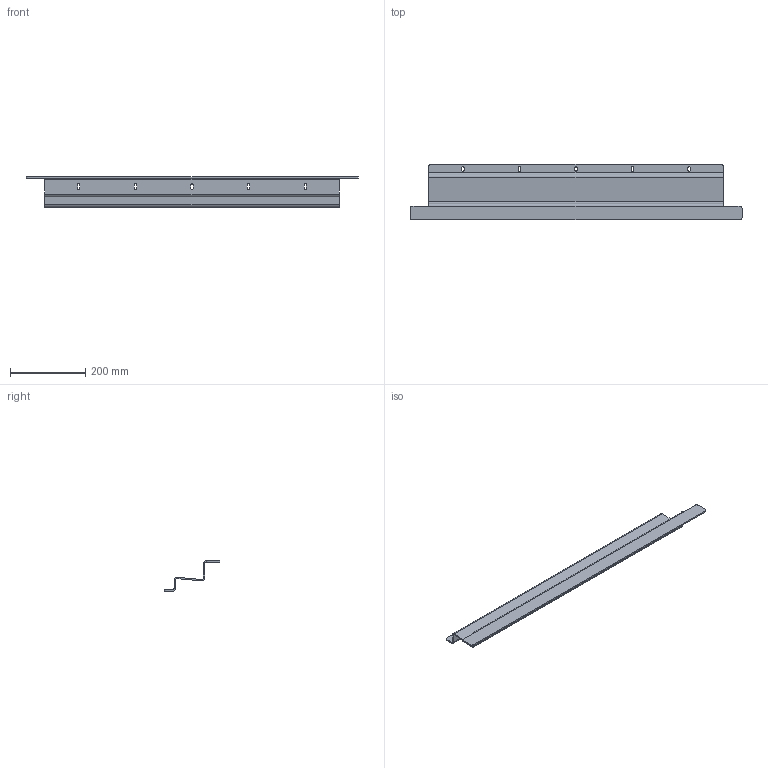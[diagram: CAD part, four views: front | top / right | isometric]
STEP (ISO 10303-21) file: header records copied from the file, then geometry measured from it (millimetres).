
FILE_DESCRIPTION(/* description */ (''),/* implementation_level */ '2;1');
FILE_NAME(/* name */ 'Light Curtain Bottom bracket.step',/* time_stamp */ '2026-05-13T10:46:27-07:00',/* author */ (''),/* organization */ (''),/* preprocessor_version */ 'ST-DEVELOPER v20.1',/* originating_system */ 'Autodesk Translation Framework v15.8.0.0',/* authorisation */ '');
FILE_SCHEMA (('AUTOMOTIVE_DESIGN { 1 0 10303 214 3 1 1 }'));
Length unit declared in the file: millimetre
Products named in the file (1): Light Curtain Bottom bracket
Bounding box: 880 x 147.9 x 80.85 mm (x, y, z)
Volume: 644882.6 mm3; surface area: 360773.8 mm2
Topology: 1 solids, 1 shells, 86 faces, 220 edges, 136 vertices
Faces by surface type: plane 52, cylinder 34
Entity records: 2649 total; most frequent: DIRECTION 462, CARTESIAN_POINT 443, ORIENTED_EDGE 440, EDGE_CURVE 220, AXIS2_PLACEMENT_3D 155, LINE 152, VECTOR 152, VERTEX_POINT 136
